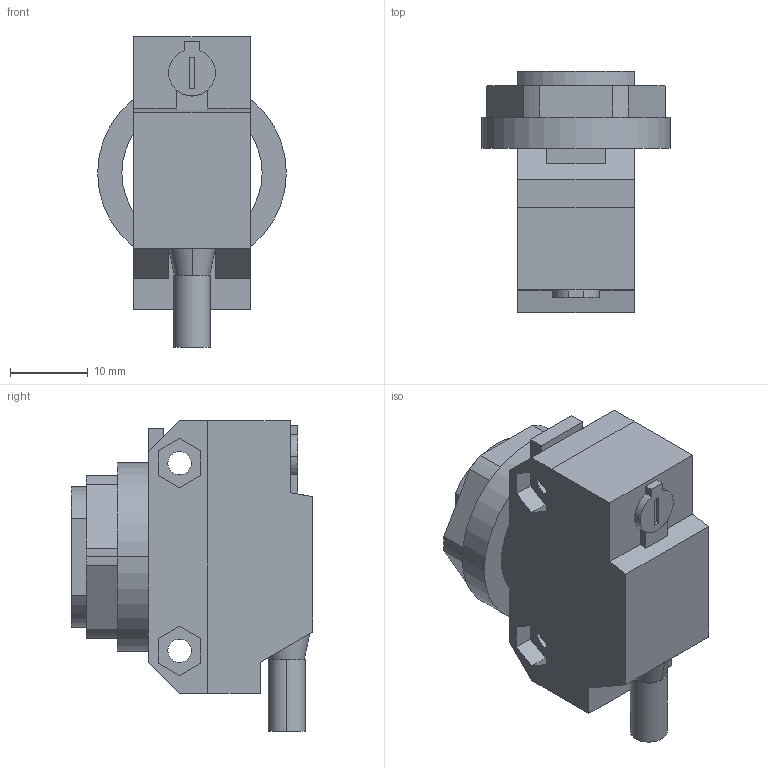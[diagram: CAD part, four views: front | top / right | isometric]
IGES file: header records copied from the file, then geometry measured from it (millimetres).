
Global section: file name: C:\Documents and Settings\Administrator\Desktop\Transfer Temp\bannersensor.igs; native system: AutoDesk Inventor R2.0 ; preprocessor: AutoDesk Inventor Iges Exporter R2.0; author: No Author specified; organization: No Organization specified; date: 20020113.104637; units: millimetre
Bounding box: 24.2 x 31 x 39.88 mm (x, y, z)
Surface area: 7853 mm2 (no closed solid volume)
Topology: 0 solids, 0 shells, 140 faces, 690 edges, 690 vertices
Faces by surface type: bspline 104, revolution 36
